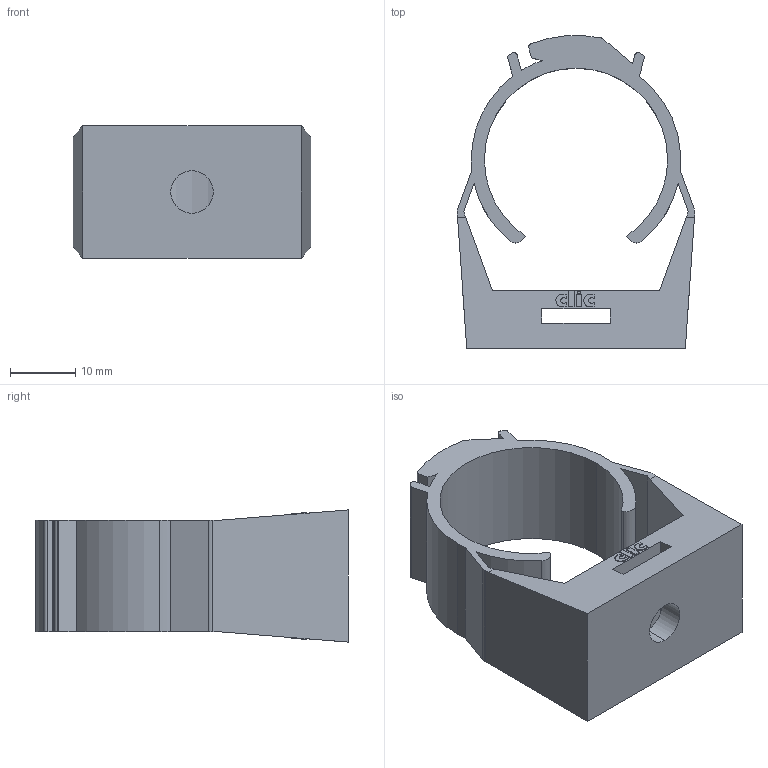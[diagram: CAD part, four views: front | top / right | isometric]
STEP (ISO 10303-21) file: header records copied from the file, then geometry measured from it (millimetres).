
FILE_DESCRIPTION (( 'STEP AP214' ), '1' );
FILE_NAME ('CLIC28.STEP', '2021-10-11T09:43:38', ( '' ), ( '' ), 'SwSTEP 2.0', 'SolidWorks 2021', '' );
FILE_SCHEMA (( 'AUTOMOTIVE_DESIGN' ));
Length unit declared in the file: millimetre
Products named in the file (1): CLIC28
Bounding box: 36.3 x 47.76 x 20.2 mm (x, y, z)
Volume: 10017.8 mm3; surface area: 7268.9 mm2
Topology: 1 solids, 1 shells, 118 faces, 324 edges, 216 vertices
Faces by surface type: plane 61, cylinder 29, bspline 28
Entity records: 3860 total; most frequent: CARTESIAN_POINT 1023, ORIENTED_EDGE 648, DIRECTION 508, EDGE_CURVE 324, VERTEX_POINT 216, LINE 210, VECTOR 210, AXIS2_PLACEMENT_3D 149
